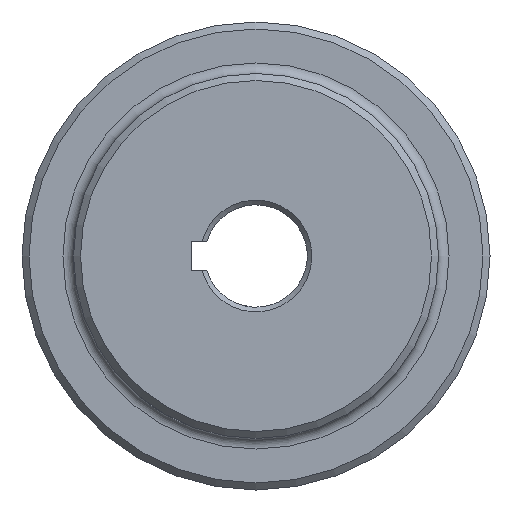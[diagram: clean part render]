
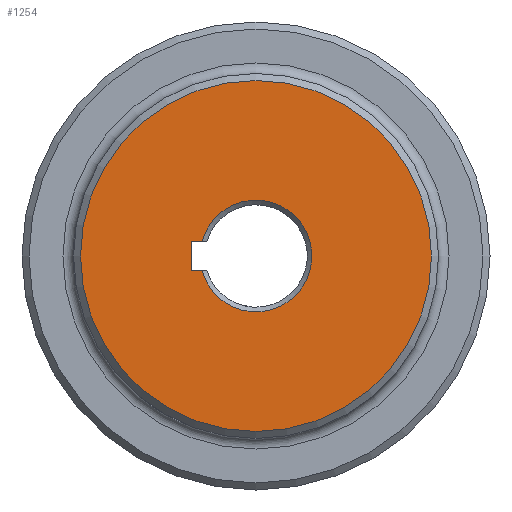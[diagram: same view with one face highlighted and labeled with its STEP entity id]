
A CAD part, left-side view. The second image highlights one B-rep face of the part: STEP entity #1254.
In plain terms, the highlighted planar face has unit normal (-1, 0, 0).
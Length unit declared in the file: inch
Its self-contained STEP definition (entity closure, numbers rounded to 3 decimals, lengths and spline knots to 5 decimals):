
#4 = VERTEX_POINT ( 'NONE', #530 ) ;
#61 = ORIENTED_EDGE ( 'NONE', *, *, #1119, .T. ) ;
#83 = AXIS2_PLACEMENT_3D ( 'NONE', #1357, #983, #1280 ) ;
#178 = VERTEX_POINT ( 'NONE', #1745 ) ;
#192 = EDGE_CURVE ( 'NONE', #4, #4, #1122, .T. ) ;
#390 = EDGE_CURVE ( 'NONE', #985, #1252, #1896, .T. ) ;
#429 = DIRECTION ( 'NONE',  ( 0., 0., -1. ) ) ;
#446 = LINE ( 'NONE', #1757, #1677 ) ;
#478 = AXIS2_PLACEMENT_3D ( 'NONE', #1801, #912, #429 ) ;
#530 = CARTESIAN_POINT ( 'NONE',  ( 0., 0., -1.5 ) ) ;
#579 = CARTESIAN_POINT ( 'NONE',  ( 0., 0.55035, -0.125 ) ) ;
#645 = VECTOR ( 'NONE', #1263, 39.37008 ) ;
#654 = DIRECTION ( 'NONE',  ( 1., 0., 0. ) ) ;
#677 = EDGE_CURVE ( 'NONE', #888, #985, #2008, .T. ) ;
#797 = EDGE_LOOP ( 'NONE', ( #1144 ) ) ;
#888 = VERTEX_POINT ( 'NONE', #2211 ) ;
#905 = CARTESIAN_POINT ( 'NONE',  ( 0., 0., -0.125 ) ) ;
#912 = DIRECTION ( 'NONE',  ( 1., 0., 0. ) ) ;
#941 = FACE_BOUND ( 'NONE', #1474, .T. ) ;
#966 = ORIENTED_EDGE ( 'NONE', *, *, #2237, .F. ) ;
#983 = DIRECTION ( 'NONE',  ( -1., 0., 0. ) ) ;
#985 = VERTEX_POINT ( 'NONE', #579 ) ;
#1046 = DIRECTION ( 'NONE',  ( 0., 0., -1. ) ) ;
#1052 = CARTESIAN_POINT ( 'NONE',  ( 0., 0.461, -0.125 ) ) ;
#1119 = EDGE_CURVE ( 'NONE', #178, #1252, #1706, .T. ) ;
#1122 = CIRCLE ( 'NONE', #83, 1.5 ) ;
#1144 = ORIENTED_EDGE ( 'NONE', *, *, #192, .T. ) ;
#1252 = VERTEX_POINT ( 'NONE', #1052 ) ;
#1254 = ADVANCED_FACE ( 'NONE', ( #1604, #941 ), #1492, .F. ) ;
#1263 = DIRECTION ( 'NONE',  ( 0., -1., 0. ) ) ;
#1280 = DIRECTION ( 'NONE',  ( 0., 0., -1. ) ) ;
#1357 = CARTESIAN_POINT ( 'NONE',  ( 0., 0., 0. ) ) ;
#1411 = CARTESIAN_POINT ( 'NONE',  ( 0., 0.55035, -0.125 ) ) ;
#1474 = EDGE_LOOP ( 'NONE', ( #966, #61, #1995, #1856 ) ) ;
#1492 = PLANE ( 'NONE',  #478 ) ;
#1591 = VECTOR ( 'NONE', #1046, 39.37008 ) ;
#1604 = FACE_OUTER_BOUND ( 'NONE', #797, .T. ) ;
#1605 = AXIS2_PLACEMENT_3D ( 'NONE', #1977, #654, #1736 ) ;
#1677 = VECTOR ( 'NONE', #1923, 39.37008 ) ;
#1706 = CIRCLE ( 'NONE', #1605, 0.47765 ) ;
#1736 = DIRECTION ( 'NONE',  ( 0., 0., -1. ) ) ;
#1745 = CARTESIAN_POINT ( 'NONE',  ( 0., 0.461, 0.125 ) ) ;
#1757 = CARTESIAN_POINT ( 'NONE',  ( 0., 0., 0.125 ) ) ;
#1801 = CARTESIAN_POINT ( 'NONE',  ( 0., 0., 0. ) ) ;
#1856 = ORIENTED_EDGE ( 'NONE', *, *, #677, .F. ) ;
#1896 = LINE ( 'NONE', #905, #645 ) ;
#1923 = DIRECTION ( 'NONE',  ( 0., 1., 0. ) ) ;
#1977 = CARTESIAN_POINT ( 'NONE',  ( 0., 0., 0. ) ) ;
#1995 = ORIENTED_EDGE ( 'NONE', *, *, #390, .F. ) ;
#2008 = LINE ( 'NONE', #1411, #1591 ) ;
#2211 = CARTESIAN_POINT ( 'NONE',  ( 0., 0.55035, 0.125 ) ) ;
#2237 = EDGE_CURVE ( 'NONE', #178, #888, #446, .T. ) ;
